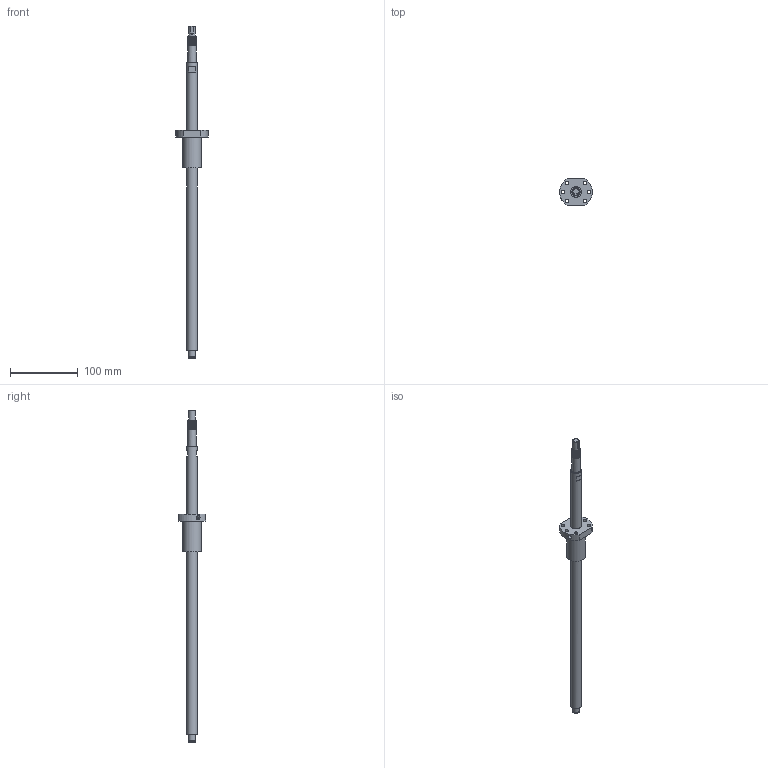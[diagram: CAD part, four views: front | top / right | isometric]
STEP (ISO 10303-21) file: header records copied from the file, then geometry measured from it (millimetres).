
FILE_DESCRIPTION(/* description */ (''),/* implementation_level */ '2;1');
FILE_NAME(/* name */ 'BSG141_asm1.stp',/* time_stamp */ '2017-01-07T08:45:16+08:00',/* author */ (''),/* organization */ (''),/* preprocessor_version */ 'ST-DEVELOPER v15',/* originating_system */ 'SIEMENS PLM Software NX 8.5',/* authorisation */ '');
FILE_SCHEMA (('AUTOMOTIVE_DESIGN { 1 0 10303 214 3 1 1 1 }'));
Length unit declared in the file: millimetre
Products named in the file (3): 01; BSG141; BSG141_asm1
Assembly tree (2 placements, depth 2):
  BSG141_asm1
    BSG141
    01
Bounding box: 48 x 40 x 490 mm (x, y, z)
Volume: 122974 mm3; surface area: 36468.4 mm2
Topology: 2 solids, 2 shells, 56 faces, 137 edges, 94 vertices
Faces by surface type: cylinder 28, plane 24, bspline 2, cone 2
Full cylindrical faces by diameter (mm): 5 x1, 5.5 x6, 6 x1, 9.6 x1, 10 x3, 12 x8, 16 x2, 28 x1
Entity records: 2497 total; most frequent: CARTESIAN_POINT 1414, DIRECTION 212, ORIENTED_EDGE 170, AXIS2_PLACEMENT_3D 92, EDGE_LOOP 90, EDGE_CURVE 85, FACE_BOUND 69, VERTEX_POINT 67
